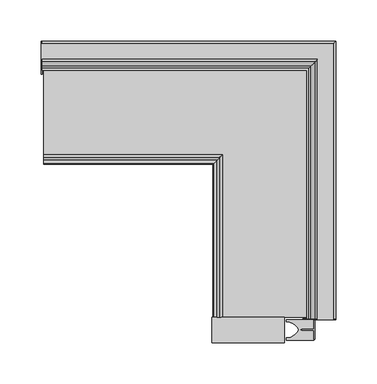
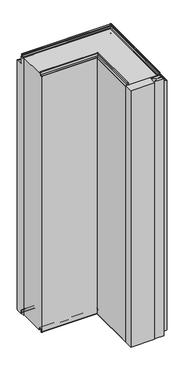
"""IFC4 building model written with IfcOpenShell, lengths in millimetres: plate geometry, Угловой модуль Fronttop : Угловой модуль Fronttop 150/1000."""

from ifc_helpers import new_model, si_unit, point, frame, frame_2d, origin, origin_with_axes, place, context, project, spatial, polyline, circle_curve, ellipse_curve, trimmed, segment, composite_curve, outline, extrude, source, transform, mapped, element, save
from ifc_brep_helpers import plane_surface, cylinder_surface, revolved_surface, advanced_brep


def plate_69a0faa1(model_context):
    return source(origin(), model_context, "Body", "SolidModel", [
        extrude(outline(polyline([(160.0, -188.4948846), (160.0, -211.5051154), (158.5, -211.5051154), (158.5, -200.6502496), (144.0759655, -200.6502496), (144.0759655, -199.35), (158.5, -199.35), (158.5, -188.4948846), (160.0, -188.4948846)])), origin_with_axes(), (0.0, 0.0, 1.0), 1000.0),
        extrude(outline(composite_curve([segment(polyline([(158.5, -187.4998455), (158.5, -199.25), (142.5, -199.25), (142.5, -200.75), (158.5, -200.75), (158.5, -212.5001545), (125.0, -212.5001545), (125.0, -209.75), (127.5, -209.75)]), True, "CONTINUOUS"), segment(trimmed(circle_curve(frame_2d((124.3183984, -191.9661979)), 18.0661619), [point((127.5, -209.75))], [point((140.5, -200.0))], True, "CARTESIAN"), True, "CONTINUOUS"), segment(trimmed(circle_curve(frame_2d((124.3183984, -208.0338021)), 18.0661619), [point((140.5, -200.0))], [point((127.5, -190.25))], True, "CARTESIAN"), True, "CONTINUOUS"), segment(polyline([(127.5, -190.25), (125.0, -190.25), (125.0, -187.4998455), (158.5, -187.4998455)]), True, "CONTINUOUS")], self_intersect=False)), origin_with_axes(), (0.0, 0.0, 1.0), 1000.0),
        extrude(outline(polyline([(35.0, -215.5), (35.0, -184.5), (123.0, -184.5), (123.0, -215.5), (35.0, -215.5)])), origin_with_axes(), (0.0, 0.0, 1.0), 1000.0),
        advanced_brep(
        [(-171.5, 124.0, 1008.0), (-171.5, 121.0, 1008.0), (-171.5, 121.0, 1004.0), (-171.5, 117.0, 1000.0), (-171.5, 115.0, 1000.0), (-171.5, 115.0, 1001.0), (-171.5, 117.0, 1001.0), (-171.5, 120.0, 1004.0), (-171.5, 120.0, 1008.0), (-171.5, 125.0, 1008.0), (-171.5, 125.0, 1000.0), (-171.5, 124.0, 1000.0), (-171.5, 115.0, 2.0), (150.0, 115.0, 2.0), (150.0, 115.0, 3.0), (-171.5, 115.0, 3.0), (150.0, -186.5, 3.0), (152.0, -186.5, 3.0), (152.0, 117.0, 3.0), (-171.5, 117.0, 3.0), (153.0, 118.0, 4.0), (-171.5, 118.0, 4.0), (153.0, 118.0, 8.0), (-171.5, 118.0, 8.0), (162.0, 127.0, 8.0), (-171.5, 127.0, 8.0), (162.0, 127.0, 0.0), (-171.5, 127.0, 0.0), (164.0, 129.0, -2.0), (-171.5, 129.0, -2.0), (164.0, -186.5, -2.0), (182.0, -186.5, -2.0), (182.0, 147.0, -2.0), (-171.5, 147.0, -2.0), (184.0, 149.0, 0.0), (-171.5, 149.0, 0.0), (184.0, 149.0, 969.0), (-171.5, 149.0, 969.0), (182.0, 147.0, 971.0), (-171.5, 147.0, 971.0), (182.0, -186.5, 971.0), (163.0, -186.5, 971.0), (163.0, 128.0, 971.0), (-171.5, 128.0, 971.0), (159.0, 124.0, 975.0), (-171.5, 124.0, 975.0), (159.0, 124.0, 1008.0), (156.0, 121.0, 1008.0), (156.0, 121.0, 1004.0), (152.0, 117.0, 1000.0), (152.0, -186.5, 1000.0), (150.0, -186.5, 1000.0), (150.0, 115.0, 1000.0), (150.0, 115.0, 1001.0), (150.0, -186.5, 1001.0), (152.0, -186.5, 1001.0), (152.0, 117.0, 1001.0), (155.0, 120.0, 1004.0), (155.0, 120.0, 1008.0), (160.0, 125.0, 1008.0), (160.0, 125.0, 975.0), (-171.5, 125.0, 975.0), (-172.5, 125.0, 975.0), (-172.5, 125.0, 1000.0), (163.0, 128.0, 972.0), (-171.5, 128.0, 972.0), (163.0, -186.5, 972.0), (163.0, -187.5, 972.0), (182.0, -187.5, 972.0), (182.0, -186.5, 972.0), (182.0, 147.0, 972.0), (-171.5, 147.0, 972.0), (-172.5, 147.0, 972.0), (-172.5, 128.0, 972.0), (185.0, 150.0, 969.0), (-171.5, 150.0, 969.0), (185.0, 150.0, 0.0), (-171.5, 150.0, 0.0), (-172.5, 150.0, 0.0), (-172.5, 150.0, 969.0), (182.0, 147.0, -3.0), (-171.5, 147.0, -3.0), (182.0, -186.5, -3.0), (182.0, -187.5, -3.0), (160.0, -187.5, -3.0), (160.0, -186.5, -3.0), (164.0, -186.5, -3.0), (164.0, 129.0, -3.0), (-171.5, 129.0, -3.0), (-171.5, 125.0, -3.0), (-172.5, 125.0, -3.0), (-172.5, 147.0, -3.0), (161.0, 126.0, 0.0), (-171.5, 126.0, 0.0), (161.0, 126.0, 8.0), (-171.5, 126.0, 8.0), (154.0, 119.0, 8.0), (-171.5, 119.0, 8.0), (154.0, 119.0, 4.0), (-171.5, 119.0, 4.0), (152.0, 117.0, 2.0), (-171.5, 117.0, 2.0), (152.0, -186.5, 2.0), (150.0, -186.5, 2.0), (156.0, -186.5, 1004.0), (156.0, -186.5, 1008.0), (159.0, -186.5, 1008.0), (159.0, -186.5, 1000.0), (160.0, -186.5, 1000.0), (160.0, -186.5, 1008.0), (155.0, -186.5, 1008.0), (155.0, -186.5, 1004.0), (153.0, -186.5, 4.0), (153.0, -186.5, 8.0), (162.0, -186.5, 8.0), (162.0, -186.5, 0.0), (184.0, -186.5, 0.0), (184.0, -186.5, 969.0), (159.0, -186.5, 975.0), (160.0, -187.5, 1000.0), (160.0, -187.5, 975.0), (160.0, -186.5, 975.0), (185.0, -186.5, 969.0), (185.0, -187.5, 969.0), (185.0, -187.5, 0.0), (185.0, -186.5, 0.0), (161.0, -186.5, 0.0), (161.0, -186.5, 8.0), (154.0, -186.5, 8.0), (154.0, -186.5, 4.0), (-171.5, 110.0, 1000.0), (-171.5, 110.0, 0.0), (-171.5, 125.0, 0.0), (-172.5, 125.0, 0.0), (-172.5, 110.0, 0.0), (-172.5, 110.0, 1000.0), (145.0, -186.5, 0.0), (145.0, -186.5, 1000.0), (160.0, -186.5, 0.0), (145.0, -187.5, 0.0), (160.0, -187.5, 0.0), (145.0, -187.5, 1000.0)],
        [
            (0, 1, circle_curve(frame((-171.5, 122.5, 1008.0), z_axis=(1.0, 0.0, 0.0), x_axis=(0.0, -1.0, 0.0)), 1.5)),
            (1, 2),
            (2, 3, circle_curve(frame((-171.5, 117.0, 1004.0), z_axis=(-1.0, 0.0, 0.0), x_axis=(0.0, -1.0, 0.0)), 4.0)),
            (3, 4),
            (4, 5),
            (5, 6),
            (6, 7, circle_curve(frame((-171.5, 117.0, 1004.0), z_axis=(1.0, 0.0, 0.0), x_axis=(0.0, -1.0, 0.0)), 3.0)),
            (7, 8),
            (8, 9, circle_curve(frame((-171.5, 122.5, 1008.0), z_axis=(-1.0, 0.0, 0.0), x_axis=(0.0, -1.0, 0.0)), 2.5)),
            (9, 10),
            (10, 11),
            (11, 0),
            (12, 13),
            (13, 14),
            (14, 15),
            (15, 12),
            (14, 16),
            (16, 17),
            (17, 18),
            (18, 19),
            (19, 15),
            (18, 20, ellipse_curve(frame((152.0, 117.0, 4.0), z_axis=(0.7071067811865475, -0.7071067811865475, 0.0), x_axis=(0.7071067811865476, 0.7071067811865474, 0.0)), 1.4142136, 1.0)),
            (20, 21),
            (21, 19, circle_curve(frame((-171.5, 117.0, 4.0), z_axis=(-1.0, 0.0, 0.0), x_axis=(0.0, -1.0, 0.0)), 1.0)),
            (20, 22),
            (22, 23),
            (23, 21),
            (22, 24, ellipse_curve(frame((157.5, 122.5, 8.0), z_axis=(-0.7071067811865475, 0.7071067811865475, 0.0), x_axis=(-0.7071067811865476, -0.7071067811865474, 0.0)), 6.363961, 4.5)),
            (24, 25),
            (25, 23, circle_curve(frame((-171.5, 122.5, 8.0), z_axis=(1.0, 0.0, 0.0), x_axis=(0.0, -1.0, 0.0)), 4.5)),
            (24, 26),
            (26, 27),
            (27, 25),
            (26, 28, ellipse_curve(frame((164.0, 129.0, 0.0), z_axis=(0.7071067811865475, -0.7071067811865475, 0.0), x_axis=(0.7071067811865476, 0.7071067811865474, 0.0)), 2.8284271, 2.0)),
            (28, 29),
            (29, 27, circle_curve(frame((-171.5, 129.0, 0.0), z_axis=(-1.0, 0.0, 0.0), x_axis=(0.0, -1.0, 0.0)), 2.0)),
            (28, 30),
            (30, 31),
            (31, 32),
            (32, 33),
            (33, 29),
            (32, 34, ellipse_curve(frame((182.0, 147.0, 0.0), z_axis=(0.7071067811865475, -0.7071067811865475, 0.0), x_axis=(0.7071067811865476, 0.7071067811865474, 0.0)), 2.8284271, 2.0)),
            (34, 35),
            (35, 33, circle_curve(frame((-171.5, 147.0, 0.0), z_axis=(-1.0, 0.0, 0.0), x_axis=(0.0, -1.0, 0.0)), 2.0)),
            (34, 36),
            (36, 37),
            (37, 35),
            (36, 38, ellipse_curve(frame((182.0, 147.0, 969.0), z_axis=(0.7071067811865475, -0.7071067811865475, 0.0), x_axis=(0.7071067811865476, 0.7071067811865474, 0.0)), 2.8284271, 2.0)),
            (38, 39),
            (39, 37, circle_curve(frame((-171.5, 147.0, 969.0), z_axis=(-1.0, 0.0, 0.0), x_axis=(0.0, -1.0, 0.0)), 2.0)),
            (38, 40),
            (40, 41),
            (41, 42),
            (42, 43),
            (43, 39),
            (42, 44, ellipse_curve(frame((163.0, 128.0, 975.0), z_axis=(-0.7071067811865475, 0.7071067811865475, 0.0), x_axis=(-0.7071067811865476, -0.7071067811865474, 0.0)), 5.6568542, 4.0)),
            (44, 45),
            (45, 43, circle_curve(frame((-171.5, 128.0, 975.0), z_axis=(1.0, 0.0, 0.0), x_axis=(0.0, -1.0, 0.0)), 4.0)),
            (44, 46),
            (46, 0),
            (11, 45),
            (46, 47, ellipse_curve(frame((157.5, 122.5, 1008.0), z_axis=(0.7071067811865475, -0.7071067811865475, 0.0), x_axis=(0.7071067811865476, 0.7071067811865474, 0.0)), 2.1213203, 1.5)),
            (47, 1),
            (47, 48),
            (48, 2),
            (48, 49, ellipse_curve(frame((152.0, 117.0, 1004.0), z_axis=(-0.7071067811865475, 0.7071067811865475, 0.0), x_axis=(-0.7071067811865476, -0.7071067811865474, 0.0)), 5.6568542, 4.0)),
            (49, 3),
            (49, 50),
            (50, 51),
            (51, 52),
            (52, 4),
            (4, 3),
            (52, 53),
            (53, 5),
            (53, 54),
            (54, 55),
            (55, 56),
            (56, 6),
            (56, 57, ellipse_curve(frame((152.0, 117.0, 1004.0), z_axis=(0.7071067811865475, -0.7071067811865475, 0.0), x_axis=(0.7071067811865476, 0.7071067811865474, 0.0)), 4.2426407, 3.0)),
            (57, 7),
            (57, 58),
            (58, 8),
            (58, 59, ellipse_curve(frame((157.5, 122.5, 1008.0), z_axis=(-0.7071067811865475, 0.7071067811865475, 0.0), x_axis=(-0.7071067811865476, -0.7071067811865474, 0.0)), 3.5355339, 2.5)),
            (59, 9),
            (59, 60),
            (60, 61),
            (61, 62),
            (62, 63),
            (63, 10),
            (60, 64, ellipse_curve(frame((163.0, 128.0, 975.0), z_axis=(0.7071067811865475, -0.7071067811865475, 0.0), x_axis=(0.7071067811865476, 0.7071067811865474, 0.0)), 4.2426407, 3.0)),
            (64, 65),
            (65, 61, circle_curve(frame((-171.5, 128.0, 975.0), z_axis=(-1.0, 0.0, 0.0), x_axis=(0.0, -1.0, 0.0)), 3.0)),
            (64, 66),
            (66, 67),
            (67, 68),
            (68, 69),
            (69, 70),
            (70, 71),
            (71, 72),
            (72, 73),
            (73, 65),
            (70, 74, ellipse_curve(frame((182.0, 147.0, 969.0), z_axis=(-0.7071067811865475, 0.7071067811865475, 0.0), x_axis=(-0.7071067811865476, -0.7071067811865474, 0.0)), 4.2426407, 3.0)),
            (74, 75),
            (75, 71, circle_curve(frame((-171.5, 147.0, 969.0), z_axis=(1.0, 0.0, 0.0), x_axis=(0.0, -1.0, 0.0)), 3.0)),
            (74, 76),
            (76, 77),
            (77, 78),
            (78, 79),
            (79, 75),
            (76, 80, ellipse_curve(frame((182.0, 147.0, 0.0), z_axis=(-0.7071067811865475, 0.7071067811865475, 0.0), x_axis=(-0.7071067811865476, -0.7071067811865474, 0.0)), 4.2426407, 3.0)),
            (80, 81),
            (81, 77, circle_curve(frame((-171.5, 147.0, 0.0), z_axis=(1.0, 0.0, 0.0), x_axis=(0.0, -1.0, 0.0)), 3.0)),
            (80, 82),
            (82, 83),
            (83, 84),
            (84, 85),
            (85, 86),
            (86, 87),
            (87, 88),
            (88, 89),
            (89, 90),
            (90, 91),
            (91, 81),
            (87, 92, ellipse_curve(frame((164.0, 129.0, 0.0), z_axis=(-0.7071067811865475, 0.7071067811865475, 0.0), x_axis=(-0.7071067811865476, -0.7071067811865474, 0.0)), 4.2426407, 3.0)),
            (92, 93),
            (93, 88, circle_curve(frame((-171.5, 129.0, 0.0), z_axis=(1.0, 0.0, 0.0), x_axis=(0.0, -1.0, 0.0)), 3.0)),
            (92, 94),
            (94, 95),
            (95, 93),
            (94, 96, ellipse_curve(frame((157.5, 122.5, 8.0), z_axis=(0.7071067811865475, -0.7071067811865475, 0.0), x_axis=(0.7071067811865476, 0.7071067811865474, 0.0)), 4.9497475, 3.5)),
            (96, 97),
            (97, 95, circle_curve(frame((-171.5, 122.5, 8.0), z_axis=(-1.0, 0.0, 0.0), x_axis=(0.0, -1.0, 0.0)), 3.5)),
            (96, 98),
            (98, 99),
            (99, 97),
            (98, 100, ellipse_curve(frame((152.0, 117.0, 4.0), z_axis=(-0.7071067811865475, 0.7071067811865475, 0.0), x_axis=(-0.7071067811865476, -0.7071067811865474, 0.0)), 2.8284271, 2.0)),
            (100, 101),
            (101, 99, circle_curve(frame((-171.5, 117.0, 4.0), z_axis=(1.0, 0.0, 0.0), x_axis=(0.0, -1.0, 0.0)), 2.0)),
            (12, 101),
            (100, 102),
            (102, 103),
            (103, 13),
            (54, 51),
            (51, 50),
            (50, 104, circle_curve(frame((152.0, -186.5, 1004.0), z_axis=(0.0, -1.0, 0.0), x_axis=(-1.0, 0.0, 0.0)), 4.0)),
            (104, 105),
            (105, 106, circle_curve(frame((157.5, -186.5, 1008.0), z_axis=(0.0, 1.0, 0.0), x_axis=(-1.0, 0.0, 0.0)), 1.5)),
            (106, 107),
            (107, 108),
            (108, 109),
            (109, 110, circle_curve(frame((157.5, -186.5, 1008.0), z_axis=(0.0, -1.0, 0.0), x_axis=(-1.0, 0.0, 0.0)), 2.5)),
            (110, 111),
            (111, 55, circle_curve(frame((152.0, -186.5, 1004.0), z_axis=(0.0, 1.0, 0.0), x_axis=(-1.0, 0.0, 0.0)), 3.0)),
            (103, 16),
            (17, 112, circle_curve(frame((152.0, -186.5, 4.0), z_axis=(0.0, -1.0, 0.0), x_axis=(-1.0, 0.0, 0.0)), 1.0)),
            (112, 20),
            (112, 113),
            (113, 22),
            (113, 114, circle_curve(frame((157.5, -186.5, 8.0), z_axis=(0.0, 1.0, 0.0), x_axis=(-1.0, 0.0, 0.0)), 4.5)),
            (114, 24),
            (114, 115),
            (115, 26),
            (115, 30, circle_curve(frame((164.0, -186.5, 0.0), z_axis=(0.0, -1.0, 0.0), x_axis=(-1.0, 0.0, 0.0)), 2.0)),
            (31, 116, circle_curve(frame((182.0, -186.5, 0.0), z_axis=(0.0, -1.0, 0.0), x_axis=(-1.0, 0.0, 0.0)), 2.0)),
            (116, 34),
            (116, 117),
            (117, 36),
            (117, 40, circle_curve(frame((182.0, -186.5, 969.0), z_axis=(0.0, -1.0, 0.0), x_axis=(-1.0, 0.0, 0.0)), 2.0)),
            (41, 118, circle_curve(frame((163.0, -186.5, 975.0), z_axis=(0.0, 1.0, 0.0), x_axis=(-1.0, 0.0, 0.0)), 4.0)),
            (118, 44),
            (118, 107),
            (106, 46),
            (105, 47),
            (104, 48),
            (111, 57),
            (110, 58),
            (109, 59),
            (108, 119),
            (119, 120),
            (120, 121),
            (121, 60),
            (121, 66, circle_curve(frame((163.0, -186.5, 975.0), z_axis=(0.0, -1.0, 0.0), x_axis=(-1.0, 0.0, 0.0)), 3.0)),
            (69, 122, circle_curve(frame((182.0, -186.5, 969.0), z_axis=(0.0, 1.0, 0.0), x_axis=(-1.0, 0.0, 0.0)), 3.0)),
            (122, 74),
            (122, 123),
            (123, 124),
            (124, 125),
            (125, 76),
            (125, 82, circle_curve(frame((182.0, -186.5, 0.0), z_axis=(0.0, 1.0, 0.0), x_axis=(-1.0, 0.0, 0.0)), 3.0)),
            (86, 126, circle_curve(frame((164.0, -186.5, 0.0), z_axis=(0.0, 1.0, 0.0), x_axis=(-1.0, 0.0, 0.0)), 3.0)),
            (126, 92),
            (126, 127),
            (127, 94),
            (127, 128, circle_curve(frame((157.5, -186.5, 8.0), z_axis=(0.0, -1.0, 0.0), x_axis=(-1.0, 0.0, 0.0)), 3.5)),
            (128, 96),
            (128, 129),
            (129, 98),
            (129, 102, circle_curve(frame((152.0, -186.5, 4.0), z_axis=(0.0, 1.0, 0.0), x_axis=(-1.0, 0.0, 0.0)), 2.0)),
            (130, 131),
            (131, 132),
            (132, 89),
            (11, 3),
            (4, 130),
            (62, 73, circle_curve(frame((-172.5, 128.0, 975.0), z_axis=(1.0, 0.0, 0.0), x_axis=(0.0, 1.0, 0.0)), 3.0)),
            (72, 79, circle_curve(frame((-172.5, 147.0, 969.0), z_axis=(-1.0, 0.0, 0.0), x_axis=(0.0, 1.0, 0.0)), 3.0)),
            (78, 91, circle_curve(frame((-172.5, 147.0, 0.0), z_axis=(-1.0, 0.0, 0.0), x_axis=(0.0, 1.0, 0.0)), 3.0)),
            (90, 133),
            (133, 134),
            (134, 135),
            (135, 63),
            (135, 130),
            (134, 131),
            (133, 132),
            (136, 137),
            (137, 51),
            (50, 107),
            (85, 138),
            (138, 136),
            (139, 140),
            (140, 84),
            (83, 124, circle_curve(frame((182.0, -187.5, 0.0), z_axis=(0.0, -1.0, 0.0), x_axis=(-1.0, 0.0, 0.0)), 3.0)),
            (123, 68, circle_curve(frame((182.0, -187.5, 969.0), z_axis=(0.0, -1.0, 0.0), x_axis=(-1.0, 0.0, 0.0)), 3.0)),
            (67, 120, circle_curve(frame((163.0, -187.5, 975.0), z_axis=(0.0, 1.0, 0.0), x_axis=(-1.0, 0.0, 0.0)), 3.0)),
            (119, 141),
            (141, 139),
            (138, 140),
            (139, 136),
            (137, 141),
        ],
        [
            plane_surface(frame((-171.5, 0.0, 0.0), z_axis=(-1.0, 0.0, 0.0), x_axis=(0.0, 0.0, 1.0))),
            plane_surface(frame((-171.5, 115.0, 2.0), z_axis=(0.0, -1.0, 0.0), x_axis=(1.0, 0.0, 0.0))),
            plane_surface(frame((-171.5, 115.0, 3.0), z_axis=(0.0, 0.0, 1.0), x_axis=(1.0, 0.0, 0.0))),
            revolved_surface(polyline([(153.00000002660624, 116.0, 4.0), (-171.5, 116.0, 4.0)]), (-171.5, 117.0, 4.0), (1.0, 0.0, 0.0)),
            plane_surface(frame((-171.5, 118.0, 4.0), z_axis=(0.0, -1.0, 0.0), x_axis=(1.0, 0.0, 0.0))),
            cylinder_surface(frame((-171.5, 122.5, 8.0), z_axis=(-1.0, 0.0, 0.0), x_axis=(0.0, -1.0, 0.0)), 4.5),
            plane_surface(frame((-171.5, 127.0, 8.0), z_axis=(0.0, 1.0, 0.0), x_axis=(1.0, 0.0, 0.0))),
            revolved_surface(polyline([(165.99999998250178, 127.0, 0.0), (-171.5, 127.0, 0.0)]), (-171.5, 129.0, 0.0), (1.0, 0.0, 0.0)),
            plane_surface(frame((-171.5, 129.0, -2.0), z_axis=(0.0, 0.0, 1.0), x_axis=(1.0, 0.0, 0.0))),
            revolved_surface(polyline([(184.0, 145.0, 0.0), (-171.5, 145.0, 0.0)]), (-171.5, 147.0, 0.0), (1.0, 0.0, 0.0)),
            plane_surface(frame((-171.5, 149.0, 0.0), z_axis=(0.0, -1.0, 0.0), x_axis=(1.0, 0.0, 0.0))),
            revolved_surface(polyline([(184.0, 145.0, 969.0), (-171.5, 145.0, 969.0)]), (-171.5, 147.0, 969.0), (1.0, 0.0, 0.0)),
            plane_surface(frame((-171.5, 147.0, 971.0), z_axis=(0.0, 0.0, -1.0), x_axis=(1.0, 0.0, 0.0))),
            cylinder_surface(frame((-171.5, 128.0, 975.0), z_axis=(-1.0, 0.0, 0.0), x_axis=(0.0, -1.0, 0.0)), 4.0),
            plane_surface(frame((-171.5, 124.0, 975.0), z_axis=(0.0, -1.0, 0.0), x_axis=(1.0, 0.0, 0.0))),
            revolved_surface(polyline([(159.0, 121.0, 1008.0), (-171.5, 121.0, 1008.0)]), (-171.5, 122.5, 1008.0), (1.0, 0.0, 0.0)),
            plane_surface(frame((-171.5, 121.0, 1008.0), z_axis=(0.0, 1.0, 0.0), x_axis=(1.0, 0.0, 0.0))),
            cylinder_surface(frame((-171.5, 117.0, 1004.0), z_axis=(-1.0, 0.0, 0.0), x_axis=(0.0, -1.0, 0.0)), 4.0),
            plane_surface(frame((-171.5, 117.0, 1000.0), z_axis=(0.0, 0.0, -1.0), x_axis=(1.0, 0.0, 0.0))),
            plane_surface(frame((-171.5, 115.0, 1000.0), z_axis=(0.0, -1.0, 0.0), x_axis=(1.0, 0.0, 0.0))),
            plane_surface(frame((-171.5, 115.0, 1001.0), z_axis=(0.0, 0.0, 1.0), x_axis=(1.0, 0.0, 0.0))),
            revolved_surface(polyline([(155.00000000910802, 114.0, 1004.0), (-171.5, 114.0, 1004.0)]), (-171.5, 117.0, 1004.0), (1.0, 0.0, 0.0)),
            plane_surface(frame((-171.5, 120.0, 1004.0), z_axis=(0.0, -1.0, 0.0), x_axis=(1.0, 0.0, 0.0))),
            cylinder_surface(frame((-171.5, 122.5, 1008.0), z_axis=(-1.0, 0.0, 0.0), x_axis=(0.0, -1.0, 0.0)), 2.5),
            plane_surface(frame((-171.5, 125.0, 1008.0), z_axis=(0.0, 1.0, 0.0), x_axis=(1.0, 0.0, 0.0))),
            revolved_surface(polyline([(166.00000000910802, 125.0, 975.0), (-171.5, 125.0, 975.0)]), (-171.5, 128.0, 975.0), (1.0, 0.0, 0.0)),
            plane_surface(frame((-171.5, 128.0, 972.0), z_axis=(0.0, 0.0, 1.0), x_axis=(1.0, 0.0, 0.0))),
            cylinder_surface(frame((-171.5, 147.0, 969.0), z_axis=(-1.0, 0.0, 0.0), x_axis=(0.0, -1.0, 0.0)), 3.0),
            plane_surface(frame((-171.5, 150.0, 969.0), z_axis=(0.0, 1.0, 0.0), x_axis=(1.0, 0.0, 0.0))),
            cylinder_surface(frame((-171.5, 147.0, 0.0), z_axis=(-1.0, 0.0, 0.0), x_axis=(0.0, -1.0, 0.0)), 3.0),
            plane_surface(frame((-171.5, 147.0, -3.0), z_axis=(0.0, 0.0, -1.0), x_axis=(1.0, 0.0, 0.0))),
            cylinder_surface(frame((-171.5, 129.0, 0.0), z_axis=(-1.0, 0.0, 0.0), x_axis=(0.0, -1.0, 0.0)), 3.0),
            plane_surface(frame((-171.5, 126.0, 0.0), z_axis=(0.0, -1.0, 0.0), x_axis=(1.0, 0.0, 0.0))),
            revolved_surface(polyline([(161.00000002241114, 119.0, 8.0), (-171.5, 119.0, 8.0)]), (-171.5, 122.5, 8.0), (1.0, 0.0, 0.0)),
            plane_surface(frame((-171.5, 119.0, 8.0), z_axis=(0.0, 1.0, 0.0), x_axis=(1.0, 0.0, 0.0))),
            cylinder_surface(frame((-171.5, 117.0, 4.0), z_axis=(-1.0, 0.0, 0.0), x_axis=(0.0, -1.0, 0.0)), 2.0),
            plane_surface(frame((-171.5, 117.0, 2.0), z_axis=(0.0, 0.0, -1.0), x_axis=(1.0, 0.0, 0.0))),
            plane_surface(frame((35.0, -186.5, 0.0), z_axis=(0.0, -1.0, 0.0), x_axis=(0.0, 0.0, 1.0))),
            plane_surface(frame((150.0, 115.0, 2.0), z_axis=(-1.0, 0.0, 0.0), x_axis=(0.0, -1.0, 0.0))),
            revolved_surface(polyline([(151.0, -186.5, 4.0), (151.0, 118.00000002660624, 4.0)]), (152.0, 0.0, 4.0), (0.0, -1.0, 0.0)),
            plane_surface(frame((153.0, 118.0, 4.0), z_axis=(-1.0, 0.0, 0.0), x_axis=(0.0, -1.0, 0.0))),
            cylinder_surface(frame((157.5, 0.0, 8.0), z_axis=(0.0, 1.0, 0.0), x_axis=(-1.0, 0.0, 0.0)), 4.5),
            plane_surface(frame((162.0, 127.0, 8.0), z_axis=(1.0, 0.0, 0.0), x_axis=(0.0, -1.0, 0.0))),
            revolved_surface(polyline([(162.0, -186.5, 0.0), (162.0, 130.9999999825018, 0.0)]), (164.0, 0.0, 0.0), (0.0, -1.0, 0.0)),
            revolved_surface(polyline([(180.0, -186.5, 0.0), (180.0, 149.0, 0.0)]), (182.0, 0.0, 0.0), (0.0, -1.0, 0.0)),
            plane_surface(frame((184.0, 149.0, 0.0), z_axis=(-1.0, 0.0, 0.0), x_axis=(0.0, -1.0, 0.0))),
            revolved_surface(polyline([(180.0, -186.5, 969.0), (180.0, 149.0, 969.0)]), (182.0, 0.0, 969.0), (0.0, -1.0, 0.0)),
            cylinder_surface(frame((163.0, 0.0, 975.0), z_axis=(0.0, 1.0, 0.0), x_axis=(-1.0, 0.0, 0.0)), 4.0),
            plane_surface(frame((159.0, 124.0, 975.0), z_axis=(-1.0, 0.0, 0.0), x_axis=(0.0, -1.0, 0.0))),
            revolved_surface(polyline([(156.0, -186.5, 1008.0), (156.0, 124.0, 1008.0)]), (157.5, 0.0, 1008.0), (0.0, -1.0, 0.0)),
            plane_surface(frame((156.0, 121.0, 1008.0), z_axis=(1.0, 0.0, 0.0), x_axis=(0.0, -1.0, 0.0))),
            cylinder_surface(frame((152.0, 0.0, 1004.0), z_axis=(0.0, 1.0, 0.0), x_axis=(-1.0, 0.0, 0.0)), 4.0),
            plane_surface(frame((150.0, 115.0, 1000.0), z_axis=(-1.0, 0.0, 0.0), x_axis=(0.0, -1.0, 0.0))),
            revolved_surface(polyline([(149.0, -186.5, 1004.0), (149.0, 120.00000000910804, 1004.0)]), (152.0, 0.0, 1004.0), (0.0, -1.0, 0.0)),
            plane_surface(frame((155.0, 120.0, 1004.0), z_axis=(-1.0, 0.0, 0.0), x_axis=(0.0, -1.0, 0.0))),
            cylinder_surface(frame((157.5, 0.0, 1008.0), z_axis=(0.0, 1.0, 0.0), x_axis=(-1.0, 0.0, 0.0)), 2.5),
            plane_surface(frame((160.0, 125.0, 1008.0), z_axis=(1.0, 0.0, 0.0), x_axis=(0.0, -1.0, 0.0))),
            revolved_surface(polyline([(160.0, -186.5, 975.0), (160.0, 131.00000000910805, 975.0)]), (163.0, 0.0, 975.0), (0.0, -1.0, 0.0)),
            cylinder_surface(frame((182.0, 0.0, 969.0), z_axis=(0.0, 1.0, 0.0), x_axis=(-1.0, 0.0, 0.0)), 3.0),
            plane_surface(frame((185.0, 150.0, 969.0), z_axis=(1.0, 0.0, 0.0), x_axis=(0.0, -1.0, 0.0))),
            cylinder_surface(frame((182.0, 0.0, 0.0), z_axis=(0.0, 1.0, 0.0), x_axis=(-1.0, 0.0, 0.0)), 3.0),
            cylinder_surface(frame((164.0, 0.0, 0.0), z_axis=(0.0, 1.0, 0.0), x_axis=(-1.0, 0.0, 0.0)), 3.0),
            plane_surface(frame((161.0, 126.0, 0.0), z_axis=(-1.0, 0.0, 0.0), x_axis=(0.0, -1.0, 0.0))),
            revolved_surface(polyline([(154.0, -186.5, 8.0), (154.0, 126.00000002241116, 8.0)]), (157.5, 0.0, 8.0), (0.0, -1.0, 0.0)),
            plane_surface(frame((154.0, 119.0, 8.0), z_axis=(1.0, 0.0, 0.0), x_axis=(0.0, -1.0, 0.0))),
            cylinder_surface(frame((152.0, 0.0, 4.0), z_axis=(0.0, 1.0, 0.0), x_axis=(-1.0, 0.0, 0.0)), 2.0),
            plane_surface(frame((-171.5, 125.0, 1000.0), z_axis=(1.0, 0.0, 0.0), x_axis=(0.0, -1.0, 0.0))),
            plane_surface(frame((-172.5, 125.0, 1000.0), z_axis=(-1.0, 0.0, 0.0), x_axis=(0.0, 1.0, 0.0))),
            plane_surface(frame((-171.5, 125.0, 1000.0), z_axis=(0.0, 0.0, 1.0), x_axis=(-1.0, 0.0, 0.0))),
            plane_surface(frame((-171.5, 110.0, 1000.0), z_axis=(0.0, -1.0, 0.0), x_axis=(-1.0, 0.0, 0.0))),
            plane_surface(frame((-171.5, 110.0, 0.0), z_axis=(0.0, 0.0, -1.0), x_axis=(-1.0, 0.0, 0.0))),
            plane_surface(frame((-171.5, 125.0, 0.0), z_axis=(0.0, -1.0, 0.0), x_axis=(-1.0, 0.0, 0.0))),
            cylinder_surface(frame((-172.5, 147.0, 0.0), z_axis=(1.0, 0.0, 0.0), x_axis=(0.0, 1.0, 0.0)), 3.0),
            cylinder_surface(frame((-172.5, 147.0, 969.0), z_axis=(1.0, 0.0, 0.0), x_axis=(0.0, 1.0, 0.0)), 3.0),
            revolved_surface(polyline([(-172.5, 131.0, 975.0), (-171.5, 131.0, 975.0)]), (-172.5, 128.0, 975.0), (-1.0, 0.0, 0.0)),
            plane_surface(frame((145.0, -186.5, 1000.0), z_axis=(0.0, 1.0, 0.0), x_axis=(0.0, 0.0, 1.0))),
            plane_surface(frame((145.0, -187.5, 1000.0), z_axis=(0.0, -1.0, 0.0), x_axis=(0.0, 0.0, -1.0))),
            plane_surface(frame((160.0, -186.5, 0.0), z_axis=(0.0, 0.0, -1.0), x_axis=(0.0, -1.0, 0.0))),
            plane_surface(frame((160.0, -186.5, -3.0), z_axis=(-1.0, 0.0, 0.0), x_axis=(0.0, -1.0, 0.0))),
            cylinder_surface(frame((182.0, -187.5, 0.0), z_axis=(0.0, 1.0, 0.0), x_axis=(-1.0, 0.0, 0.0)), 3.0),
            cylinder_surface(frame((182.0, -187.5, 969.0), z_axis=(0.0, 1.0, 0.0), x_axis=(-1.0, 0.0, 0.0)), 3.0),
            revolved_surface(polyline([(160.0, -187.5, 975.0), (160.0, -186.5, 975.0)]), (163.0, -187.5, 975.0), (0.0, -1.0, 0.0)),
            plane_surface(frame((145.0, -186.5, 1000.0), z_axis=(0.0, 0.0, 1.0), x_axis=(0.0, -1.0, 0.0))),
            plane_surface(frame((145.0, -186.5, 0.0), z_axis=(-1.0, 0.0, 0.0), x_axis=(0.0, -1.0, 0.0))),
        ],
        [
            (0, [[1, 2, 3, 4, 5, 6, 7, 8, 9, 10, 11, 12]]),
            (1, [[13, 14, 15, 16]]),
            (2, [[-15, 17, 18, 19, 20, 21]]),
            (3, [[-20, 22, 23, 24]]),
            (4, [[-23, 25, 26, 27]]),
            (5, [[-26, 28, 29, 30]]),
            (6, [[-29, 31, 32, 33]]),
            (7, [[-32, 34, 35, 36]]),
            (8, [[-35, 37, 38, 39, 40, 41]]),
            (9, [[-40, 42, 43, 44]]),
            (10, [[-43, 45, 46, 47]]),
            (11, [[-46, 48, 49, 50]]),
            (12, [[-49, 51, 52, 53, 54, 55]]),
            (13, [[-54, 56, 57, 58]]),
            (14, [[-57, 59, 60, -12, 61]]),
            (15, [[-1, -60, 62, 63]]),
            (16, [[-2, -63, 64, 65]]),
            (17, [[-3, -65, 66, 67]]),
            (18, [[-67, 68, 69, 70, 71, 72]]),
            (19, [[-5, -71, 73, 74]]),
            (20, [[-6, -74, 75, 76, 77, 78]]),
            (21, [[-7, -78, 79, 80]]),
            (22, [[-8, -80, 81, 82]]),
            (23, [[-9, -82, 83, 84]]),
            (24, [[-84, 85, 86, 87, 88, 89, -10]]),
            (25, [[-86, 90, 91, 92]]),
            (26, [[-91, 93, 94, 95, 96, 97, 98, 99, 100, 101]]),
            (27, [[-98, 102, 103, 104]]),
            (28, [[-103, 105, 106, 107, 108, 109]]),
            (29, [[-106, 110, 111, 112]]),
            (30, [[-111, 113, 114, 115, 116, 117, 118, 119, 120, 121, 122, 123]]),
            (31, [[-119, 124, 125, 126]]),
            (32, [[-125, 127, 128, 129]]),
            (33, [[-128, 130, 131, 132]]),
            (34, [[-131, 133, 134, 135]]),
            (35, [[-134, 136, 137, 138]]),
            (36, [[-13, 139, -137, 140, 141, 142]]),
            (37, [[-76, 143, 144, 145, 146, 147, 148, 149, 150, 151, 152, 153]]),
            (38, [[-14, -142, 154, -17]]),
            (39, [[-19, 155, 156, -22]]),
            (40, [[-25, -156, 157, 158]]),
            (41, [[-28, -158, 159, 160]]),
            (42, [[-31, -160, 161, 162]]),
            (43, [[-34, -162, 163, -37]]),
            (44, [[-39, 164, 165, -42]]),
            (45, [[-45, -165, 166, 167]]),
            (46, [[-48, -167, 168, -51]]),
            (47, [[-53, 169, 170, -56]]),
            (48, [[-59, -170, 171, -148, 172]]),
            (49, [[-62, -172, -147, 173]]),
            (50, [[-64, -173, -146, 174]]),
            (51, [[-66, -174, -145, -68]]),
            (52, [[-70, -143, -75, -73]]),
            (53, [[-77, -153, 175, -79]]),
            (54, [[-81, -175, -152, 176]]),
            (55, [[-83, -176, -151, 177]]),
            (56, [[-85, -177, -150, 178, 179, 180, 181]]),
            (57, [[-90, -181, 182, -93]]),
            (58, [[-97, 183, 184, -102]]),
            (59, [[-105, -184, 185, 186, 187, 188]]),
            (60, [[-110, -188, 189, -113]]),
            (61, [[-118, 190, 191, -124]]),
            (62, [[-127, -191, 192, 193]]),
            (63, [[-130, -193, 194, 195]]),
            (64, [[-133, -195, 196, 197]]),
            (65, [[-136, -197, 198, -140]]),
            (66, [[199, 200, 201, -120, -126, -129, -132, -135, -138, -139, -16, -21, -24, -27, -30, -33, -36, -41, -44, -47, -50, -55, -58, -61, 202, -72, 203]]),
            (67, [[-88, 204, -100, 205, -108, 206, -122, 207, 208, 209, 210]]),
            (68, [[-210, 211, -203, -4, -202, -11, -89]]),
            (69, [[-199, -211, -209, 212]]),
            (70, [[-200, -212, -208, 213]]),
            (71, [[-201, -213, -207, -121]]),
            (72, [[-206, -107, -112, -123]]),
            (73, [[-205, -99, -104, -109]]),
            (74, [[-204, -87, -92, -101]]),
            (75, [[214, 215, -69, 216, -171, -169, -52, -168, -166, -164, -38, -163, -161, -159, -157, -155, -18, -154, -141, -198, -196, -194, -192, -190, -117, 217, 218]]),
            (76, [[219, 220, -115, 221, -186, 222, -95, 223, -179, 224, 225]]),
            (77, [[-218, 226, -219, 227]]),
            (78, [[-217, -116, -220, -226]]),
            (79, [[-221, -114, -189, -187]]),
            (80, [[-222, -185, -183, -96]]),
            (81, [[-223, -94, -182, -180]]),
            (82, [[-224, -178, -149, -216, -144, -215, 228]]),
            (83, [[-214, -227, -225, -228]]),
        ],
    ),
        advanced_brep(
        [(-169.5, 15.0, 3.0), (-169.5, 13.0, 3.0), (-169.5, 12.0, 4.0), (-169.5, 12.0, 8.0), (-169.5, 3.0, 8.0), (-169.5, 3.0, -0.5), (-169.5, 1.0, -0.5), (-169.5, 1.0, 995.0278643), (-169.5, 2.1111111, 996.0216723), (-169.5, 6.0, 999.5), (-169.5, 6.0, 1008.0), (-169.5, 9.0, 1008.0), (-169.5, 9.0, 1004.0), (-169.5, 13.0, 1000.0), (-169.5, 117.0, 1000.0), (-169.5, 121.0, 1004.0), (-169.5, 121.0, 1008.0), (-169.5, 124.0, 1008.0), (-169.5, 124.0, 975.0), (-169.5, 128.0, 971.0), (-169.5, 147.0, 971.0), (-169.5, 149.0, 969.0), (-169.5, 149.0, 0.0), (-169.5, 147.0, -2.0), (-169.5, 129.0, -2.0), (-169.5, 127.0, 0.0), (-169.5, 127.0, 8.0), (-169.5, 118.0, 8.0), (-169.5, 118.0, 4.0), (-169.5, 117.0, 3.0), (-169.5, 115.0, 3.0), (-169.5, 115.0, 0.0), (-169.5, 15.0, 0.0), (50.0, 15.0, 0.0), (50.0, 15.0, 3.0), (150.0, 115.0, 0.0), (150.0, -184.5, 0.0), (50.0, -184.5, 0.0), (150.0, 115.0, 3.0), (152.0, 117.0, 3.0), (152.0, -184.5, 3.0), (150.0, -184.5, 3.0), (153.0, 118.0, 4.0), (153.0, 118.0, 8.0), (162.0, 127.0, 8.0), (162.0, 127.0, 0.0), (164.0, 129.0, -2.0), (182.0, 147.0, -2.0), (182.0, -184.5, -2.0), (164.0, -184.5, -2.0), (184.0, 149.0, 0.0), (184.0, 149.0, 969.0), (182.0, 147.0, 971.0), (163.0, 128.0, 971.0), (163.0, -184.5, 971.0), (182.0, -184.5, 971.0), (159.0, 124.0, 975.0), (159.0, 124.0, 1008.0), (156.0, 121.0, 1008.0), (156.0, 121.0, 1004.0), (152.0, 117.0, 1000.0), (48.0, 13.0, 1000.0), (48.0, -184.5, 1000.0), (152.0, -184.5, 1000.0), (44.0, 9.0, 1004.0), (44.0, 9.0, 1008.0), (41.0, 6.0, 1008.0), (41.0, 6.0, 999.5), (37.1111111, 2.1111111, 996.021672), (36.0, 1.0, 995.0278643), (36.0, 1.0, -0.5), (38.0, 3.0, -0.5), (38.0, 3.0, 8.0), (47.0, 12.0, 8.0), (47.0, 12.0, 4.0), (48.0, 13.0, 3.0), (50.0, -184.5, 3.0), (48.0, -184.5, 3.0), (153.0, -184.5, 4.0), (153.0, -184.5, 8.0), (162.0, -184.5, 8.0), (162.0, -184.5, 0.0), (184.0, -184.5, 0.0), (184.0, -184.5, 969.0), (159.0, -184.5, 975.0), (159.0, -184.5, 1008.0), (156.0, -184.5, 1008.0), (156.0, -184.5, 1004.0), (44.0, -184.5, 1004.0), (44.0, -184.5, 1008.0), (41.0, -184.5, 1008.0), (41.0, -184.5, 999.5), (37.1111111, -184.5, 996.021672), (36.0, -184.5, 995.0278643), (36.0, -184.5, -0.5), (38.0, -184.5, -0.5), (38.0, -184.5, 8.0), (47.0, -184.5, 8.0), (47.0, -184.5, 4.0)],
        [
            (0, 1),
            (1, 2, circle_curve(frame((-169.5, 13.0, 4.0), z_axis=(-1.0, 0.0, 0.0), x_axis=(0.0, -1.0, 0.0)), 1.0)),
            (2, 3),
            (3, 4, circle_curve(frame((-169.5, 7.5, 8.0), z_axis=(1.0, 0.0, 0.0), x_axis=(0.0, -1.0, 0.0)), 4.5)),
            (4, 5),
            (5, 6, circle_curve(frame((-169.5, 2.0, -0.5), z_axis=(-1.0, 0.0, 0.0), x_axis=(0.0, -1.0, 0.0)), 1.0)),
            (6, 7),
            (7, 8, circle_curve(frame((-169.5, 2.0, 995.0278643), z_axis=(-1.0, 0.0, 0.0), x_axis=(0.0, -1.0, 0.0)), 1.0)),
            (8, 9, circle_curve(frame((-169.5, 2.5, 999.5), z_axis=(1.0, 0.0, 0.0), x_axis=(0.0, -1.0, 0.0)), 3.5)),
            (9, 10),
            (10, 11, circle_curve(frame((-169.5, 7.5, 1008.0), z_axis=(-1.0, 0.0, 0.0), x_axis=(0.0, -1.0, 0.0)), 1.5)),
            (11, 12),
            (12, 13, circle_curve(frame((-169.5, 13.0, 1004.0), z_axis=(1.0, 0.0, 0.0), x_axis=(0.0, -1.0, 0.0)), 4.0)),
            (13, 14),
            (14, 15, circle_curve(frame((-169.5, 117.0, 1004.0), z_axis=(1.0, 0.0, 0.0), x_axis=(0.0, -1.0, 0.0)), 4.0)),
            (15, 16),
            (16, 17, circle_curve(frame((-169.5, 122.5, 1008.0), z_axis=(-1.0, 0.0, 0.0), x_axis=(0.0, -1.0, 0.0)), 1.5)),
            (17, 18),
            (18, 19, circle_curve(frame((-169.5, 128.0, 975.0), z_axis=(1.0, 0.0, 0.0), x_axis=(0.0, -1.0, 0.0)), 4.0)),
            (19, 20),
            (20, 21, circle_curve(frame((-169.5, 147.0, 969.0), z_axis=(-1.0, 0.0, 0.0), x_axis=(0.0, -1.0, 0.0)), 2.0)),
            (21, 22),
            (22, 23, circle_curve(frame((-169.5, 147.0, 0.0), z_axis=(-1.0, 0.0, 0.0), x_axis=(0.0, -1.0, 0.0)), 2.0)),
            (23, 24),
            (24, 25, circle_curve(frame((-169.5, 129.0, 0.0), z_axis=(-1.0, 0.0, 0.0), x_axis=(0.0, -1.0, 0.0)), 2.0)),
            (25, 26),
            (26, 27, circle_curve(frame((-169.5, 122.5, 8.0), z_axis=(1.0, 0.0, 0.0), x_axis=(0.0, -1.0, 0.0)), 4.5)),
            (27, 28),
            (28, 29, circle_curve(frame((-169.5, 117.0, 4.0), z_axis=(-1.0, 0.0, 0.0), x_axis=(0.0, -1.0, 0.0)), 1.0)),
            (29, 30),
            (30, 31),
            (31, 32),
            (32, 0),
            (32, 33),
            (33, 34),
            (34, 0),
            (31, 35),
            (35, 36),
            (36, 37),
            (37, 33),
            (30, 38),
            (38, 35),
            (29, 39),
            (39, 40),
            (40, 41),
            (41, 38),
            (28, 42),
            (42, 39, ellipse_curve(frame((152.0, 117.0, 4.0), z_axis=(-0.7071067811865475, 0.7071067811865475, 0.0), x_axis=(-0.7071067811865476, -0.7071067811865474, 0.0)), 1.4142136, 1.0)),
            (27, 43),
            (43, 42),
            (26, 44),
            (44, 43, ellipse_curve(frame((157.5, 122.5, 8.0), z_axis=(0.7071067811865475, -0.7071067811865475, 0.0), x_axis=(0.7071067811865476, 0.7071067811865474, 0.0)), 6.363961, 4.5)),
            (25, 45),
            (45, 44),
            (24, 46),
            (46, 45, ellipse_curve(frame((164.0, 129.0, 0.0), z_axis=(-0.7071067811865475, 0.7071067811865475, 0.0), x_axis=(-0.7071067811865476, -0.7071067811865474, 0.0)), 2.8284271, 2.0)),
            (23, 47),
            (47, 48),
            (48, 49),
            (49, 46),
            (22, 50),
            (50, 47, ellipse_curve(frame((182.0, 147.0, 0.0), z_axis=(-0.7071067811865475, 0.7071067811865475, 0.0), x_axis=(-0.7071067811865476, -0.7071067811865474, 0.0)), 2.8284271, 2.0)),
            (21, 51),
            (51, 50),
            (20, 52),
            (52, 51, ellipse_curve(frame((182.0, 147.0, 969.0), z_axis=(-0.7071067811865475, 0.7071067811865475, 0.0), x_axis=(-0.7071067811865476, -0.7071067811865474, 0.0)), 2.8284271, 2.0)),
            (19, 53),
            (53, 54),
            (54, 55),
            (55, 52),
            (18, 56),
            (56, 53, ellipse_curve(frame((163.0, 128.0, 975.0), z_axis=(0.7071067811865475, -0.7071067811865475, 0.0), x_axis=(0.7071067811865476, 0.7071067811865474, 0.0)), 5.6568542, 4.0)),
            (17, 57),
            (57, 56),
            (16, 58),
            (58, 57, ellipse_curve(frame((157.5, 122.5, 1008.0), z_axis=(-0.7071067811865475, 0.7071067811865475, 0.0), x_axis=(-0.7071067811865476, -0.7071067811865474, 0.0)), 2.1213203, 1.5)),
            (15, 59),
            (59, 58),
            (14, 60),
            (60, 59, ellipse_curve(frame((152.0, 117.0, 1004.0), z_axis=(0.7071067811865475, -0.7071067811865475, 0.0), x_axis=(0.7071067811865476, 0.7071067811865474, 0.0)), 5.6568542, 4.0)),
            (13, 61),
            (61, 62),
            (62, 63),
            (63, 60),
            (12, 64),
            (64, 61, ellipse_curve(frame((48.0, 13.0, 1004.0), z_axis=(0.7071067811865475, -0.7071067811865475, 0.0), x_axis=(0.7071067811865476, 0.7071067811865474, 0.0)), 5.6568542, 4.0)),
            (11, 65),
            (65, 64),
            (10, 66),
            (66, 65, ellipse_curve(frame((42.5, 7.5, 1008.0), z_axis=(-0.7071067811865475, 0.7071067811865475, 0.0), x_axis=(-0.7071067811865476, -0.7071067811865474, 0.0)), 2.1213204, 1.5)),
            (9, 67),
            (67, 66),
            (8, 68),
            (68, 67, ellipse_curve(frame((37.5, 2.5, 999.5), z_axis=(0.7071067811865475, -0.7071067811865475, 0.0), x_axis=(0.7071067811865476, 0.7071067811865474, 0.0)), 4.9497475, 3.5)),
            (7, 69),
            (69, 68, ellipse_curve(frame((37.0, 2.0, 995.0278643), z_axis=(-0.7071067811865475, 0.7071067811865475, 0.0), x_axis=(-0.7071067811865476, -0.7071067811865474, 0.0)), 1.4142136, 1.0)),
            (6, 70),
            (70, 69),
            (5, 71),
            (71, 70, ellipse_curve(frame((37.0, 2.0, -0.5), z_axis=(-0.7071067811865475, 0.7071067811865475, 0.0), x_axis=(-0.7071067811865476, -0.7071067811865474, 0.0)), 1.4142136, 1.0)),
            (4, 72),
            (72, 71),
            (3, 73),
            (73, 72, ellipse_curve(frame((42.5, 7.5, 8.0), z_axis=(0.7071067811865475, -0.7071067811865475, 0.0), x_axis=(0.7071067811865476, 0.7071067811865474, 0.0)), 6.363961, 4.5)),
            (2, 74),
            (74, 73),
            (1, 75),
            (75, 74, ellipse_curve(frame((48.0, 13.0, 4.0), z_axis=(-0.7071067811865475, 0.7071067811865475, 0.0), x_axis=(-0.7071067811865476, -0.7071067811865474, 0.0)), 1.4142136, 1.0)),
            (34, 76),
            (76, 77),
            (77, 75),
            (76, 37),
            (36, 41),
            (40, 78, circle_curve(frame((152.0, -184.5, 4.0), z_axis=(0.0, -1.0, 0.0), x_axis=(-1.0, 0.0, 0.0)), 1.0)),
            (78, 79),
            (79, 80, circle_curve(frame((157.5, -184.5, 8.0), z_axis=(0.0, 1.0, 0.0), x_axis=(-1.0, 0.0, 0.0)), 4.5)),
            (80, 81),
            (81, 49, circle_curve(frame((164.0, -184.5, 0.0), z_axis=(0.0, -1.0, 0.0), x_axis=(-1.0, 0.0, 0.0)), 2.0)),
            (48, 82, circle_curve(frame((182.0, -184.5, 0.0), z_axis=(0.0, -1.0, 0.0), x_axis=(-1.0, 0.0, 0.0)), 2.0)),
            (82, 83),
            (83, 55, circle_curve(frame((182.0, -184.5, 969.0), z_axis=(0.0, -1.0, 0.0), x_axis=(-1.0, 0.0, 0.0)), 2.0)),
            (54, 84, circle_curve(frame((163.0, -184.5, 975.0), z_axis=(0.0, 1.0, 0.0), x_axis=(-1.0, 0.0, 0.0)), 4.0)),
            (84, 85),
            (85, 86, circle_curve(frame((157.5, -184.5, 1008.0), z_axis=(0.0, -1.0, 0.0), x_axis=(-1.0, 0.0, 0.0)), 1.5)),
            (86, 87),
            (87, 63, circle_curve(frame((152.0, -184.5, 1004.0), z_axis=(0.0, 1.0, 0.0), x_axis=(-1.0, 0.0, 0.0)), 4.0)),
            (62, 88, circle_curve(frame((48.0, -184.5, 1004.0), z_axis=(0.0, 1.0, 0.0), x_axis=(-1.0, 0.0, 0.0)), 4.0)),
            (88, 89),
            (89, 90, circle_curve(frame((42.5, -184.5, 1008.0), z_axis=(0.0, -1.0, 0.0), x_axis=(-1.0, 0.0, 0.0)), 1.5)),
            (90, 91),
            (91, 92, circle_curve(frame((37.5, -184.5, 999.5), z_axis=(0.0, 1.0, 0.0), x_axis=(-1.0, 0.0, 0.0)), 3.5)),
            (92, 93, circle_curve(frame((37.0, -184.5, 995.0278643), z_axis=(0.0, -1.0, 0.0), x_axis=(-1.0, 0.0, 0.0)), 1.0)),
            (93, 94),
            (94, 95, circle_curve(frame((37.0, -184.5, -0.5), z_axis=(0.0, -1.0, 0.0), x_axis=(-1.0, 0.0, 0.0)), 1.0)),
            (95, 96),
            (96, 97, circle_curve(frame((42.5, -184.5, 8.0), z_axis=(0.0, 1.0, 0.0), x_axis=(-1.0, 0.0, 0.0)), 4.5)),
            (97, 98),
            (98, 77, circle_curve(frame((48.0, -184.5, 4.0), z_axis=(0.0, -1.0, 0.0), x_axis=(-1.0, 0.0, 0.0)), 1.0)),
            (42, 78),
            (43, 79),
            (44, 80),
            (45, 81),
            (50, 82),
            (51, 83),
            (56, 84),
            (57, 85),
            (58, 86),
            (59, 87),
            (64, 88),
            (65, 89),
            (66, 90),
            (67, 91),
            (68, 92),
            (69, 93),
            (70, 94),
            (71, 95),
            (72, 96),
            (73, 97),
            (74, 98),
        ],
        [
            plane_surface(frame((-169.5, 0.0, 0.0), z_axis=(-1.0, 0.0, 0.0), x_axis=(0.0, 0.0, 1.0))),
            plane_surface(frame((-169.5, 15.0, 0.0), z_axis=(0.0, -1.0, 0.0), x_axis=(1.0, 0.0, 0.0))),
            plane_surface(frame((-169.5, 115.0, 0.0), z_axis=(0.0, 0.0, -1.0), x_axis=(1.0, 0.0, 0.0))),
            plane_surface(frame((-169.5, 115.0, 3.0), z_axis=(0.0, 1.0, 0.0), x_axis=(1.0, 0.0, 0.0))),
            plane_surface(frame((-169.5, 117.0, 3.0), z_axis=(0.0, 0.0, -1.0), x_axis=(1.0, 0.0, 0.0))),
            cylinder_surface(frame((-169.5, 117.0, 4.0), z_axis=(-1.0, 0.0, 0.0), x_axis=(0.0, -1.0, 0.0)), 1.0),
            plane_surface(frame((-169.5, 118.0, 8.0), z_axis=(0.0, 1.0, 0.0), x_axis=(1.0, 0.0, 0.0))),
            revolved_surface(polyline([(162.0, 118.0, 8.0), (-169.5, 118.0, 8.0)]), (-169.5, 122.5, 8.0), (1.0, 0.0, 0.0)),
            plane_surface(frame((-169.5, 127.0, 0.0), z_axis=(0.0, -1.0, 0.0), x_axis=(1.0, 0.0, 0.0))),
            cylinder_surface(frame((-169.5, 129.0, 0.0), z_axis=(-1.0, 0.0, 0.0), x_axis=(0.0, -1.0, 0.0)), 2.0),
            plane_surface(frame((-169.5, 147.0, -2.0), z_axis=(0.0, 0.0, -1.0), x_axis=(1.0, 0.0, 0.0))),
            cylinder_surface(frame((-169.5, 147.0, 0.0), z_axis=(-1.0, 0.0, 0.0), x_axis=(0.0, -1.0, 0.0)), 2.0),
            plane_surface(frame((-169.5, 149.0, 969.0), z_axis=(0.0, 1.0, 0.0), x_axis=(1.0, 0.0, 0.0))),
            cylinder_surface(frame((-169.5, 147.0, 969.0), z_axis=(-1.0, 0.0, 0.0), x_axis=(0.0, -1.0, 0.0)), 2.0),
            plane_surface(frame((-169.5, 128.0, 971.0), z_axis=(0.0, 0.0, 1.0), x_axis=(1.0, 0.0, 0.0))),
            revolved_surface(polyline([(166.9999999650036, 124.0, 975.0), (-169.5, 124.0, 975.0)]), (-169.5, 128.0, 975.0), (1.0, 0.0, 0.0)),
            plane_surface(frame((-169.5, 124.0, 1008.0), z_axis=(0.0, 1.0, 0.0), x_axis=(1.0, 0.0, 0.0))),
            cylinder_surface(frame((-169.5, 122.5, 1008.0), z_axis=(-1.0, 0.0, 0.0), x_axis=(0.0, -1.0, 0.0)), 1.5),
            plane_surface(frame((-169.5, 121.0, 1004.0), z_axis=(0.0, -1.0, 0.0), x_axis=(1.0, 0.0, 0.0))),
            revolved_surface(polyline([(156.0, 113.0, 1004.0), (-169.5, 113.0, 1004.0)]), (-169.5, 117.0, 1004.0), (1.0, 0.0, 0.0)),
            plane_surface(frame((-169.5, 13.0, 1000.0), z_axis=(0.0, 0.0, 1.0), x_axis=(1.0, 0.0, 0.0))),
            revolved_surface(polyline([(51.99999996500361, 9.0, 1004.0), (-169.5, 9.0, 1004.0)]), (-169.5, 13.0, 1004.0), (1.0, 0.0, 0.0)),
            plane_surface(frame((-169.5, 9.0, 1008.0), z_axis=(0.0, 1.0, 0.0), x_axis=(1.0, 0.0, 0.0))),
            cylinder_surface(frame((-169.5, 7.5, 1008.0), z_axis=(-1.0, 0.0, 0.0), x_axis=(0.0, -1.0, 0.0)), 1.5),
            plane_surface(frame((-169.5, 6.0, 999.5), z_axis=(0.0, -1.0, 0.0), x_axis=(1.0, 0.0, 0.0))),
            revolved_surface(polyline([(41.00000002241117, -1.0, 999.5), (-169.5, -1.0, 999.5)]), (-169.5, 2.5, 999.5), (1.0, 0.0, 0.0)),
            cylinder_surface(frame((-169.5, 2.0, 995.0278643), z_axis=(-1.0, 0.0, 0.0), x_axis=(0.0, -1.0, 0.0)), 1.0),
            plane_surface(frame((-169.5, 1.0, -0.5), z_axis=(0.0, -1.0, 0.0), x_axis=(1.0, 0.0, 0.0))),
            cylinder_surface(frame((-169.5, 2.0, -0.5), z_axis=(-1.0, 0.0, 0.0), x_axis=(0.0, -1.0, 0.0)), 1.0),
            plane_surface(frame((-169.5, 3.0, 8.0), z_axis=(0.0, 1.0, 0.0), x_axis=(1.0, 0.0, 0.0))),
            revolved_surface(polyline([(47.0, 3.0, 8.0), (-169.5, 3.0, 8.0)]), (-169.5, 7.5, 8.0), (1.0, 0.0, 0.0)),
            plane_surface(frame((-169.5, 12.0, 4.0), z_axis=(0.0, -1.0, 0.0), x_axis=(1.0, 0.0, 0.0))),
            cylinder_surface(frame((-169.5, 13.0, 4.0), z_axis=(-1.0, 0.0, 0.0), x_axis=(0.0, -1.0, 0.0)), 1.0),
            plane_surface(frame((-169.5, 15.0, 3.0), z_axis=(0.0, 0.0, -1.0), x_axis=(1.0, 0.0, 0.0))),
            plane_surface(frame((35.0, -184.5, 0.0), z_axis=(0.0, -1.0, 0.0), x_axis=(0.0, 0.0, 1.0))),
            plane_surface(frame((50.0, 15.0, 0.0), z_axis=(-1.0, 0.0, 0.0), x_axis=(0.0, -1.0, 0.0))),
            plane_surface(frame((150.0, 115.0, 3.0), z_axis=(1.0, 0.0, 0.0), x_axis=(0.0, -1.0, 0.0))),
            cylinder_surface(frame((152.0, 0.0, 4.0), z_axis=(0.0, 1.0, 0.0), x_axis=(-1.0, 0.0, 0.0)), 1.0),
            plane_surface(frame((153.0, 118.0, 8.0), z_axis=(1.0, 0.0, 0.0), x_axis=(0.0, -1.0, 0.0))),
            revolved_surface(polyline([(153.0, -184.5, 8.0), (153.0, 127.0, 8.0)]), (157.5, 0.0, 8.0), (0.0, -1.0, 0.0)),
            plane_surface(frame((162.0, 127.0, 0.0), z_axis=(-1.0, 0.0, 0.0), x_axis=(0.0, -1.0, 0.0))),
            cylinder_surface(frame((164.0, 0.0, 0.0), z_axis=(0.0, 1.0, 0.0), x_axis=(-1.0, 0.0, 0.0)), 2.0),
            cylinder_surface(frame((182.0, 0.0, 0.0), z_axis=(0.0, 1.0, 0.0), x_axis=(-1.0, 0.0, 0.0)), 2.0),
            plane_surface(frame((184.0, 149.0, 969.0), z_axis=(1.0, 0.0, 0.0), x_axis=(0.0, -1.0, 0.0))),
            cylinder_surface(frame((182.0, 0.0, 969.0), z_axis=(0.0, 1.0, 0.0), x_axis=(-1.0, 0.0, 0.0)), 2.0),
            revolved_surface(polyline([(159.0, -184.5, 975.0), (159.0, 131.9999999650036, 975.0)]), (163.0, 0.0, 975.0), (0.0, -1.0, 0.0)),
            plane_surface(frame((159.0, 124.0, 1008.0), z_axis=(1.0, 0.0, 0.0), x_axis=(0.0, -1.0, 0.0))),
            cylinder_surface(frame((157.5, 0.0, 1008.0), z_axis=(0.0, 1.0, 0.0), x_axis=(-1.0, 0.0, 0.0)), 1.5),
            plane_surface(frame((156.0, 121.0, 1004.0), z_axis=(-1.0, 0.0, 0.0), x_axis=(0.0, -1.0, 0.0))),
            revolved_surface(polyline([(148.0, -184.5, 1004.0), (148.0, 121.0, 1004.0)]), (152.0, 0.0, 1004.0), (0.0, -1.0, 0.0)),
            revolved_surface(polyline([(44.0, -184.5, 1004.0), (44.0, 16.999999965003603, 1004.0)]), (48.0, 0.0, 1004.0), (0.0, -1.0, 0.0)),
            plane_surface(frame((44.0, 9.0, 1008.0), z_axis=(1.0, 0.0, 0.0), x_axis=(0.0, -1.0, 0.0))),
            cylinder_surface(frame((42.5, 0.0, 1008.0), z_axis=(0.0, 1.0, 0.0), x_axis=(-1.0, 0.0, 0.0)), 1.5),
            plane_surface(frame((41.0, 6.0, 999.5), z_axis=(-1.0, 0.0, 0.0), x_axis=(0.0, -1.0, 0.0))),
            revolved_surface(polyline([(34.0, -184.5, 999.5), (34.0, 6.000000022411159, 999.5)]), (37.5, 0.0, 999.5), (0.0, -1.0, 0.0)),
            cylinder_surface(frame((37.0, 0.0, 995.0278643), z_axis=(0.0, 1.0, 0.0), x_axis=(-1.0, 0.0, 0.0)), 1.0),
            plane_surface(frame((36.0, 1.0, -0.5), z_axis=(-1.0, 0.0, 0.0), x_axis=(0.0, -1.0, 0.0))),
            cylinder_surface(frame((37.0, 0.0, -0.5), z_axis=(0.0, 1.0, 0.0), x_axis=(-1.0, 0.0, 0.0)), 1.0),
            plane_surface(frame((38.0, 3.0, 8.0), z_axis=(1.0, 0.0, 0.0), x_axis=(0.0, -1.0, 0.0))),
            revolved_surface(polyline([(38.0, -184.5, 8.0), (38.0, 12.0, 8.0)]), (42.5, 0.0, 8.0), (0.0, -1.0, 0.0)),
            plane_surface(frame((47.0, 12.0, 4.0), z_axis=(-1.0, 0.0, 0.0), x_axis=(0.0, -1.0, 0.0))),
            cylinder_surface(frame((48.0, 0.0, 4.0), z_axis=(0.0, 1.0, 0.0), x_axis=(-1.0, 0.0, 0.0)), 1.0),
        ],
        [
            (0, [[1, 2, 3, 4, 5, 6, 7, 8, 9, 10, 11, 12, 13, 14, 15, 16, 17, 18, 19, 20, 21, 22, 23, 24, 25, 26, 27, 28, 29, 30, 31, 32, 33]]),
            (1, [[-33, 34, 35, 36]]),
            (2, [[-32, 37, 38, 39, 40, -34]]),
            (3, [[-31, 41, 42, -37]]),
            (4, [[-30, 43, 44, 45, 46, -41]]),
            (5, [[-29, 47, 48, -43]]),
            (6, [[-28, 49, 50, -47]]),
            (7, [[-27, 51, 52, -49]]),
            (8, [[-26, 53, 54, -51]]),
            (9, [[-25, 55, 56, -53]]),
            (10, [[-24, 57, 58, 59, 60, -55]]),
            (11, [[-23, 61, 62, -57]]),
            (12, [[-22, 63, 64, -61]]),
            (13, [[-21, 65, 66, -63]]),
            (14, [[-20, 67, 68, 69, 70, -65]]),
            (15, [[-19, 71, 72, -67]]),
            (16, [[-18, 73, 74, -71]]),
            (17, [[-17, 75, 76, -73]]),
            (18, [[-16, 77, 78, -75]]),
            (19, [[-15, 79, 80, -77]]),
            (20, [[-14, 81, 82, 83, 84, -79]]),
            (21, [[-13, 85, 86, -81]]),
            (22, [[-12, 87, 88, -85]]),
            (23, [[-11, 89, 90, -87]]),
            (24, [[-10, 91, 92, -89]]),
            (25, [[-9, 93, 94, -91]]),
            (26, [[-8, 95, 96, -93]]),
            (27, [[-7, 97, 98, -95]]),
            (28, [[-6, 99, 100, -97]]),
            (29, [[-5, 101, 102, -99]]),
            (30, [[-4, 103, 104, -101]]),
            (31, [[-3, 105, 106, -103]]),
            (32, [[-2, 107, 108, -105]]),
            (33, [[-1, -36, 109, 110, 111, -107]]),
            (34, [[112, -39, 113, -45, 114, 115, 116, 117, 118, -59, 119, 120, 121, -69, 122, 123, 124, 125, 126, -83, 127, 128, 129, 130, 131, 132, 133, 134, 135, 136, 137, 138, -110]]),
            (35, [[-35, -40, -112, -109]]),
            (36, [[-42, -46, -113, -38]]),
            (37, [[-48, 139, -114, -44]]),
            (38, [[-50, 140, -115, -139]]),
            (39, [[-52, 141, -116, -140]]),
            (40, [[-54, 142, -117, -141]]),
            (41, [[-56, -60, -118, -142]]),
            (42, [[-62, 143, -119, -58]]),
            (43, [[-64, 144, -120, -143]]),
            (44, [[-66, -70, -121, -144]]),
            (45, [[-72, 145, -122, -68]]),
            (46, [[-74, 146, -123, -145]]),
            (47, [[-76, 147, -124, -146]]),
            (48, [[-78, 148, -125, -147]]),
            (49, [[-80, -84, -126, -148]]),
            (50, [[-86, 149, -127, -82]]),
            (51, [[-88, 150, -128, -149]]),
            (52, [[-90, 151, -129, -150]]),
            (53, [[-92, 152, -130, -151]]),
            (54, [[-94, 153, -131, -152]]),
            (55, [[-96, 154, -132, -153]]),
            (56, [[-98, 155, -133, -154]]),
            (57, [[-100, 156, -134, -155]]),
            (58, [[-102, 157, -135, -156]]),
            (59, [[-104, 158, -136, -157]]),
            (60, [[-106, 159, -137, -158]]),
            (61, [[-108, -111, -138, -159]]),
        ],
    ),
    ])


if __name__ == "__main__":
    model = new_model("IFC4")
    model_context = context("Model", 3, world=origin())
    ifc_project = project(units=[si_unit("LENGTHUNIT", "METRE", prefix="MILLI")], contexts=[model_context])
    site = spatial("IfcSite", under=ifc_project)
    building = spatial("IfcBuilding", under=site)
    placement = place(None, origin())
    plate_shape = plate_69a0faa1(model_context)
    element("IfcPlate", 1, ObjectType="Угловой модуль Fronttop : Угловой модуль Fronttop 150/1000", at=placement, inside=building, context=model_context, shape_type="MappedRepresentation", body=[
        mapped(plate_shape, transform((0.0, 0.0, 0.0), x_axis=(1.0, 0.0, 0.0), y_axis=(0.0, 1.0, 0.0), z_axis=(0.0, 0.0, 1.0))),
    ])
    save(model, "model.ifc")
